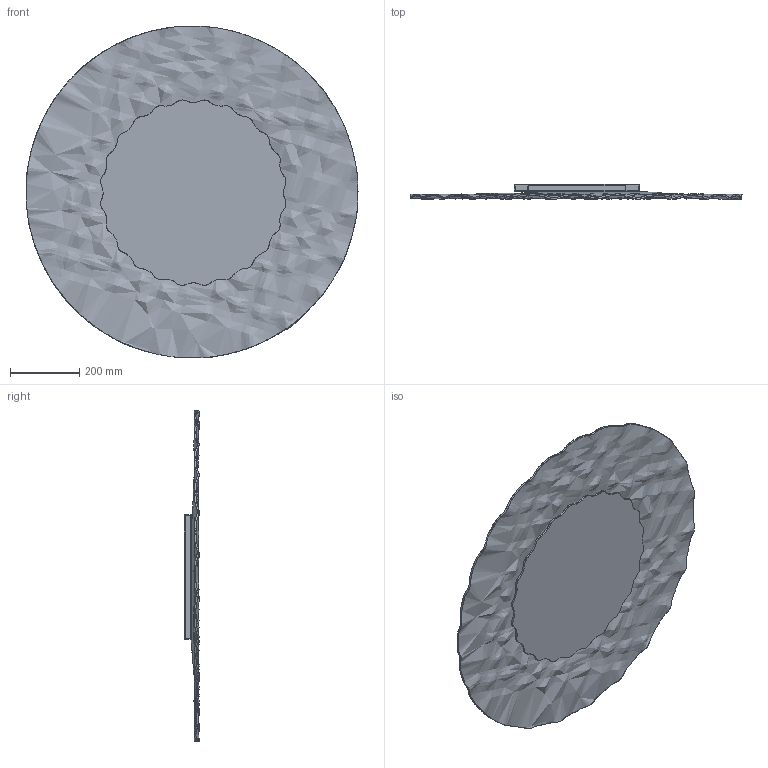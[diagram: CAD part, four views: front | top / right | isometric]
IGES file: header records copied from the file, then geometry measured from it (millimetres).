
Global section: file name: Z:\3D_LQ\POP_rev2021\xWeb\D96\POP_diam96.igs; native system: Rhinoceros ( Aug 11 2021 ); preprocessor: Trout Lake IGES 012 Aug 11 2021; date: 250221.160930; units: millimetre
Bounding box: 960.5 x 44.49 x 960.34 mm (x, y, z)
Surface area: 2231267.7 mm2 (no closed solid volume)
Topology: 0 solids, 0 shells, 82 faces, 2360 edges, 2354 vertices
Faces by surface type: bspline 82
